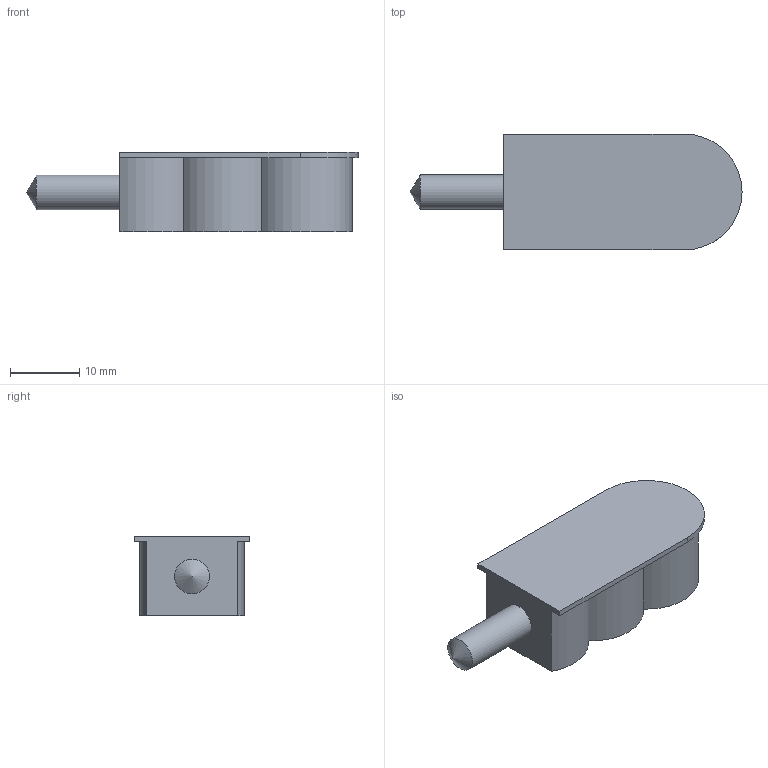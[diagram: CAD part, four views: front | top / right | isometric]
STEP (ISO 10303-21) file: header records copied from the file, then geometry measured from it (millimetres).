
FILE_DESCRIPTION(/* description */ (''),/* implementation_level */ '2;1');
FILE_NAME(/* name */ 'C:\Users\matthiask.LAMELLONET\Desktop\Cabineo_Bund_flaechenbuendig_Variante_1-2_Gegenbohrung_D5x12mm.stp',/* time_stamp */ '2021-07-13T14:48:22+02:00',/* author */ ('matthiask'),/* organization */ (''),/* preprocessor_version */ 'ST-DEVELOPER v18',/* originating_system */ 'Autodesk Inventor 2020',/* authorisation */ '');
FILE_SCHEMA (('AUTOMOTIVE_DESIGN { 1 0 10303 214 3 1 1 }'));
Length unit declared in the file: millimetre
Products named in the file (3): Cabineo Bund flächenbündig Variante 1-2_Gegenbohrung D5x12; Cabineo Bund flächenbündig Variante 1-2; Cabineo Bohrung D5x12
Assembly tree (2 placements, depth 2):
  Cabineo Bund flächenbündig Variante 1-2_Gegenbohrung D5x12
    Cabineo Bund flächenbündig Variante 1-2
    Cabineo Bohrung D5x12
Bounding box: 47.85 x 16.7 x 11.5 mm (x, y, z)
Volume: 5406 mm3; surface area: 2408.9 mm2
Topology: 2 solids, 2 shells, 15 faces, 37 edges, 25 vertices
Faces by surface type: plane 7, cylinder 7, cone 1
Full cylindrical faces by diameter (mm): 5 x1
Entity records: 573 total; most frequent: DIRECTION 92, CARTESIAN_POINT 81, ORIENTED_EDGE 72, EDGE_CURVE 36, AXIS2_PLACEMENT_3D 36, VERTEX_POINT 25, LINE 20, VECTOR 20
